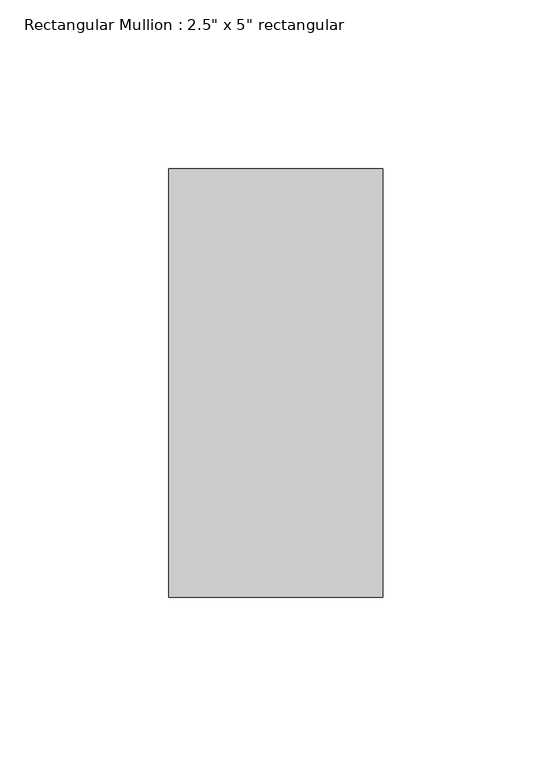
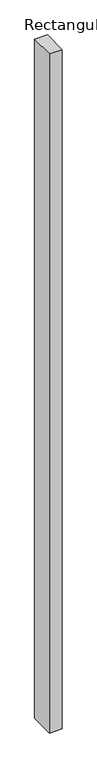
"""IFC4 building model written with IfcOpenShell, lengths in millimetres: member geometry."""

from ifc_helpers import new_model, si_unit, frame, origin, place, context, project, spatial, polyline, outline, extrude, source, transform, mapped, element, save


def member_f539bf5b(model_context):
    return source(origin(), model_context, "Body", "SweptSolid", [
        extrude(outline(polyline([(31.75, 63.5), (31.75, -63.5), (-31.75, -63.5), (-31.75, 63.5), (31.75, 63.5)])), frame((0.0, 0.0, -3577.0835734), z_axis=(0.0, 0.0, 1.0), x_axis=(1.0, 0.0, 0.0)), (0.0, 0.0, 1.0), 3577.0835734),
    ])


if __name__ == "__main__":
    model = new_model("IFC4")
    model_context = context("Model", 3, world=origin())
    ifc_project = project(units=[si_unit("LENGTHUNIT", "METRE", prefix="MILLI")], contexts=[model_context])
    site = spatial("IfcSite", under=ifc_project)
    building = spatial("IfcBuilding", under=site)
    placement = place(None, origin())
    member_shape = member_f539bf5b(model_context)
    element("IfcMember", 1, ObjectType="Rectangular Mullion : 2.5\" x 5\" rectangular", at=placement, inside=building, context=model_context, shape_type="MappedRepresentation", body=[
        mapped(member_shape, transform((0.0, 0.0, 0.0), x_axis=(1.0, 0.0, 0.0), y_axis=(0.0, 1.0, 0.0), z_axis=(0.0, 0.0, 1.0))),
    ])
    save(model, "model.ifc")
